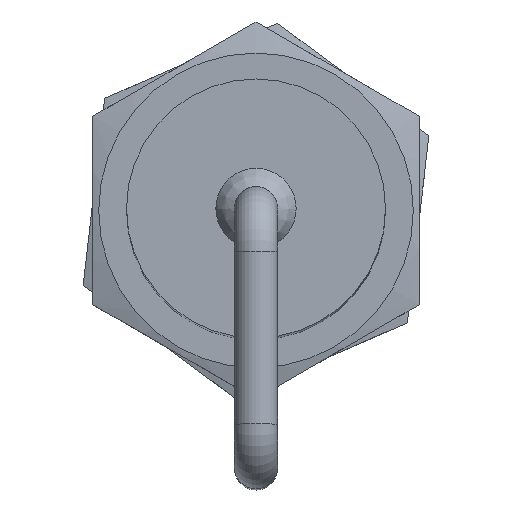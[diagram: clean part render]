
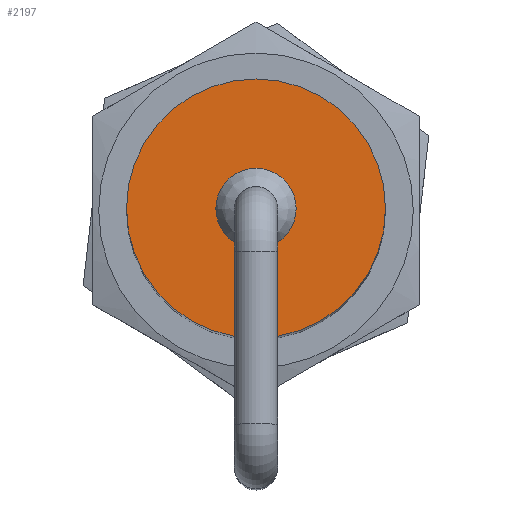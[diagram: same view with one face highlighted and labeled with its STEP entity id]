
A CAD part, top view. The second image highlights one B-rep face of the part: STEP entity #2197.
In plain terms, the highlighted planar face has unit normal (0, 0, 1).
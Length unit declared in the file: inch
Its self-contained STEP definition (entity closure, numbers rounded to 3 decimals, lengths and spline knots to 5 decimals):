
#220=FACE_BOUND('',#508,.T.);
#256=PLANE('',#2537);
#371=FACE_OUTER_BOUND('',#507,.T.);
#507=EDGE_LOOP('',(#1821));
#508=EDGE_LOOP('',(#1822));
#774=CIRCLE('',#2523,0.11628);
#779=CIRCLE('',#2536,0.375);
#955=VERTEX_POINT('',#5696);
#979=VERTEX_POINT('',#12222);
#1222=EDGE_CURVE('',#955,#955,#774,.T.);
#1265=EDGE_CURVE('',#979,#979,#779,.T.);
#1821=ORIENTED_EDGE('',*,*,#1265,.T.);
#1822=ORIENTED_EDGE('',*,*,#1222,.T.);
#2197=ADVANCED_FACE('',(#371,#220),#256,.T.);
#2523=AXIS2_PLACEMENT_3D('',#5698,#2903,#2904);
#2536=AXIS2_PLACEMENT_3D('',#12223,#2938,#2939);
#2537=AXIS2_PLACEMENT_3D('',#12225,#2941,#2942);
#2903=DIRECTION('center_axis',(0.,0.,
-1.));
#2904=DIRECTION('ref_axis',(1.,0.,0.));
#2938=DIRECTION('center_axis',(0.,0.,1.));
#2939=DIRECTION('ref_axis',(1.,0.,0.));
#2941=DIRECTION('center_axis',(0.,0.,1.));
#2942=DIRECTION('ref_axis',(1.,0.,0.));
#5696=CARTESIAN_POINT('',(-0.11628,0.,4.));
#5698=CARTESIAN_POINT('Origin',(0.,0.,
4.));
#12222=CARTESIAN_POINT('',(-0.375,0.,4.));
#12223=CARTESIAN_POINT('Origin',(0.,0.,4.));
#12225=CARTESIAN_POINT('Origin',(0.,0.,4.));
